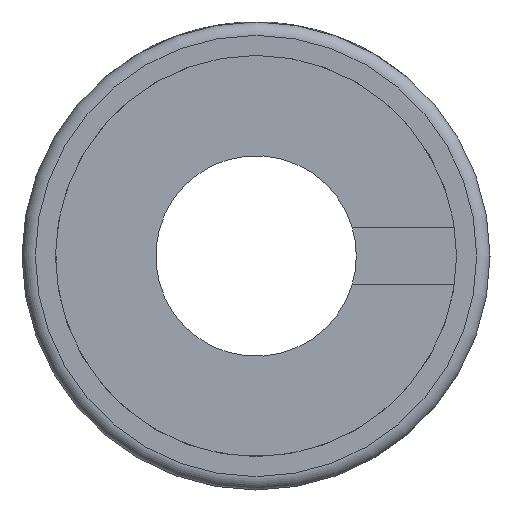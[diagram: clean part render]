
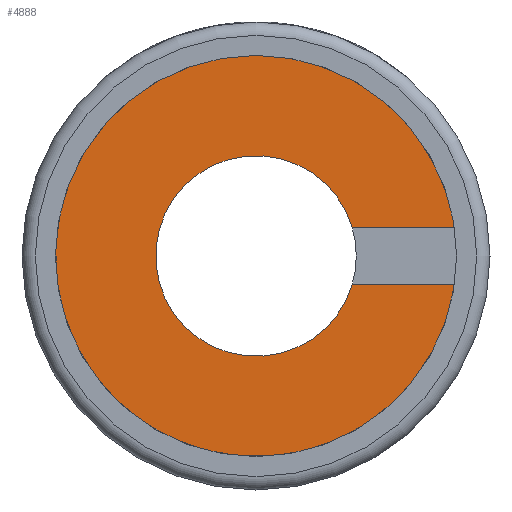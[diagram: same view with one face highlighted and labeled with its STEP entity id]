
A CAD part, left-side view. The second image highlights one B-rep face of the part: STEP entity #4888.
In plain terms, the highlighted planar face has unit normal (-1, 0, 0).
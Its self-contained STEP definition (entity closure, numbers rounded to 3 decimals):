
#347=CIRCLE('',#5198,3.);
#348=CIRCLE('',#5199,1.5);
#491=ORIENTED_EDGE('',*,*,#1977,.T.);
#492=ORIENTED_EDGE('',*,*,#1978,.T.);
#493=ORIENTED_EDGE('',*,*,#1979,.T.);
#494=ORIENTED_EDGE('',*,*,#1980,.F.);
#1977=EDGE_CURVE('',#2720,#2721,#3217,.T.);
#1978=EDGE_CURVE('',#2721,#2722,#347,.T.);
#1979=EDGE_CURVE('',#2722,#2723,#3218,.T.);
#1980=EDGE_CURVE('',#2720,#2723,#348,.T.);
#2720=VERTEX_POINT('',#6660);
#2721=VERTEX_POINT('',#6661);
#2722=VERTEX_POINT('',#6663);
#2723=VERTEX_POINT('',#6665);
#3217=LINE('',#6659,#3628);
#3218=LINE('',#6664,#3629);
#3628=VECTOR('',#5550,1000.);
#3629=VECTOR('',#5553,1000.);
#4039=EDGE_LOOP('',(#491,#492,#493,#494));
#4385=FACE_BOUND('',#4039,.T.);
#4731=PLANE('',#5197);
#4888=ADVANCED_FACE('',(#4385),#4731,.F.);
#5197=AXIS2_PLACEMENT_3D('',#6658,#5548,#5549);
#5198=AXIS2_PLACEMENT_3D('',#6662,#5551,#5552);
#5199=AXIS2_PLACEMENT_3D('',#6666,#5554,#5555);
#5548=DIRECTION('',(1.,0.,0.));
#5549=DIRECTION('',(0.,0.,-1.));
#5550=DIRECTION('',(0.,-1.,0.));
#5551=DIRECTION('',(-1.,0.,0.));
#5552=DIRECTION('',(0.,0.,1.));
#5553=DIRECTION('',(0.,1.,0.));
#5554=DIRECTION('',(-1.,0.,0.));
#5555=DIRECTION('',(0.,0.,1.));
#6658=CARTESIAN_POINT('',(0.95,3.,0.));
#6659=CARTESIAN_POINT('',(0.95,-1.424,0.42));
#6660=CARTESIAN_POINT('',(0.95,-1.44,0.42));
#6661=CARTESIAN_POINT('',(0.95,-2.97,0.42));
#6662=CARTESIAN_POINT('',(0.95,0.,0.));
#6663=CARTESIAN_POINT('',(0.95,-2.97,-0.42));
#6664=CARTESIAN_POINT('',(0.95,-2.97,-0.42));
#6665=CARTESIAN_POINT('',(0.95,-1.44,-0.42));
#6666=CARTESIAN_POINT('',(0.95,0.,0.));
